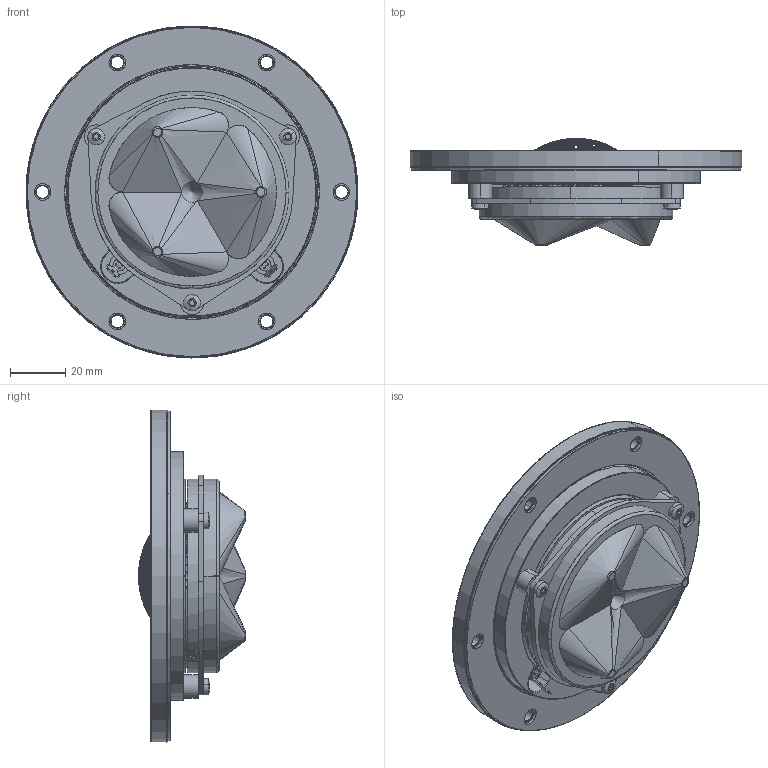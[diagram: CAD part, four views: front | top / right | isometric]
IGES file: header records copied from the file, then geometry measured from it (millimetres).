
Start section: SolidWorks IGES file using analytic representation for surfaces
Global section: file name: W:\TT\D29\D2908-714000\D2908-714000.IGS; native system: SolidWorks 2019; preprocessor: SolidWorks 2019; author: mhn; date: 201217.123425; units: millimetre
Bounding box: 119.99 x 38.71 x 119.99 mm (x, y, z)
Surface area: 50161.2 mm2 (no closed solid volume)
Topology: 0 solids, 0 shells, 3386 faces, 24505 edges, 24496 vertices
Faces by surface type: bspline 3216, revolution 170
